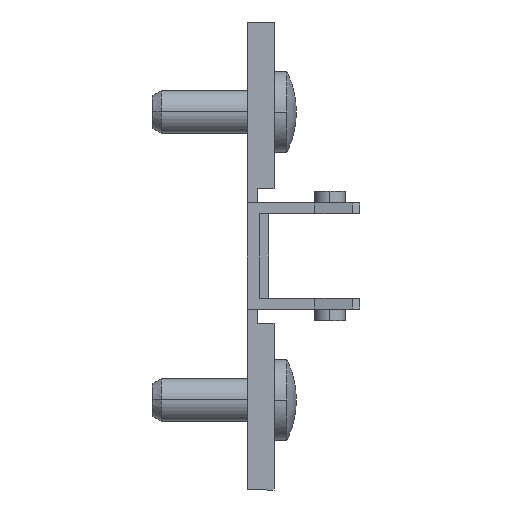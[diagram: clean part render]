
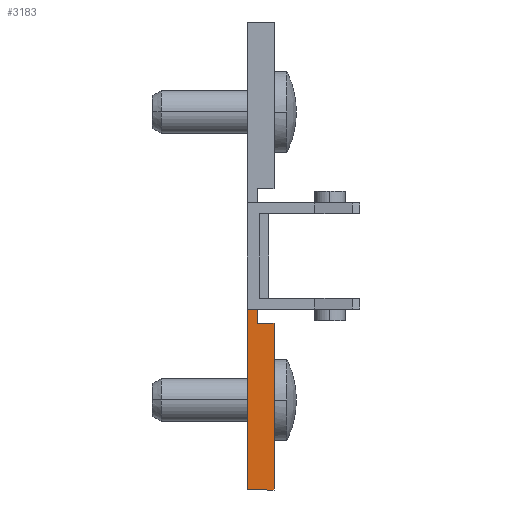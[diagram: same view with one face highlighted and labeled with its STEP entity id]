
A CAD part, front view. The second image highlights one B-rep face of the part: STEP entity #3183.
In plain terms, the highlighted planar face has unit normal (0, -1, 0).
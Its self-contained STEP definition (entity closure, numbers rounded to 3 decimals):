
#4 = CARTESIAN_POINT ( 'NONE',  ( 1.2, -9., -7.5 ) ) ;
#36 = DIRECTION ( 'NONE',  ( -1., 0., 0. ) ) ;
#196 = VECTOR ( 'NONE', #2528, 1000. ) ;
#197 = LINE ( 'NONE', #2527, #196 ) ;
#220 = VECTOR ( 'NONE', #1979, 1000. ) ;
#221 = LINE ( 'NONE', #1341, #220 ) ;
#236 = VECTOR ( 'NONE', #36, 1000. ) ;
#237 = LINE ( 'NONE', #4, #236 ) ;
#278 = VECTOR ( 'NONE', #2452, 1000. ) ;
#279 = LINE ( 'NONE', #2478, #278 ) ;
#341 = VECTOR ( 'NONE', #3059, 1000. ) ;
#359 = LINE ( 'NONE', #3058, #341 ) ;
#381 = VECTOR ( 'NONE', #3010, 1000. ) ;
#382 = LINE ( 'NONE', #3009, #381 ) ;
#908 = CARTESIAN_POINT ( 'NONE',  ( 0., -9., -26. ) ) ;
#909 = CARTESIAN_POINT ( 'NONE',  ( 3., -9., -26. ) ) ;
#910 = CARTESIAN_POINT ( 'NONE',  ( 0., -9., -5.9 ) ) ;
#914 = CARTESIAN_POINT ( 'NONE',  ( 3., -9., -7.5 ) ) ;
#915 = CARTESIAN_POINT ( 'NONE',  ( 1.2, -9., -7.5 ) ) ;
#917 = CARTESIAN_POINT ( 'NONE',  ( 1.2, -9., -5.9 ) ) ;
#1230 = DIRECTION ( 'NONE',  ( 0., 0., 1. ) ) ;
#1234 = DIRECTION ( 'NONE',  ( 0., 1., 0. ) ) ;
#1240 = CARTESIAN_POINT ( 'NONE',  ( 1.2, -9., -5. ) ) ;
#1244 = PLANE ( 'NONE',  #2396 ) ;
#1341 = CARTESIAN_POINT ( 'NONE',  ( 3., -9., -7.5 ) ) ;
#1382 = ORIENTED_EDGE ( 'NONE', *, *, #2187, .F. ) ;
#1383 = ORIENTED_EDGE ( 'NONE', *, *, #2146, .T. ) ;
#1384 = ORIENTED_EDGE ( 'NONE', *, *, #2314, .T. ) ;
#1385 = ORIENTED_EDGE ( 'NONE', *, *, #2295, .T. ) ;
#1386 = ORIENTED_EDGE ( 'NONE', *, *, #2281, .T. ) ;
#1387 = ORIENTED_EDGE ( 'NONE', *, *, #2243, .T. ) ;
#1757 = EDGE_LOOP ( 'NONE', ( #1382, #1383, #1384, #1385, #1386, #1387 ) ) ;
#1979 = DIRECTION ( 'NONE',  ( 0., 0., 1. ) ) ;
#2146 = EDGE_CURVE ( 'NONE', #2642, #2640, #382, .T. ) ;
#2187 = EDGE_CURVE ( 'NONE', #2642, #2633, #359, .T. ) ;
#2243 = EDGE_CURVE ( 'NONE', #2639, #2633, #279, .T. ) ;
#2281 = EDGE_CURVE ( 'NONE', #2638, #2639, #237, .T. ) ;
#2295 = EDGE_CURVE ( 'NONE', #2641, #2638, #221, .T. ) ;
#2314 = EDGE_CURVE ( 'NONE', #2640, #2641, #197, .T. ) ;
#2396 = AXIS2_PLACEMENT_3D ( 'NONE', #1240, #1234, #1230 ) ;
#2452 = DIRECTION ( 'NONE',  ( 0., 0., 1. ) ) ;
#2478 = CARTESIAN_POINT ( 'NONE',  ( 1.2, -9., -5. ) ) ;
#2527 = CARTESIAN_POINT ( 'NONE',  ( 3., -9., -26. ) ) ;
#2528 = DIRECTION ( 'NONE',  ( 1., 0., 0. ) ) ;
#2633 = VERTEX_POINT ( 'NONE', #917 ) ;
#2638 = VERTEX_POINT ( 'NONE', #914 ) ;
#2639 = VERTEX_POINT ( 'NONE', #915 ) ;
#2640 = VERTEX_POINT ( 'NONE', #908 ) ;
#2641 = VERTEX_POINT ( 'NONE', #909 ) ;
#2642 = VERTEX_POINT ( 'NONE', #910 ) ;
#3009 = CARTESIAN_POINT ( 'NONE',  ( 0., -9., -26. ) ) ;
#3010 = DIRECTION ( 'NONE',  ( 0., 0., -1. ) ) ;
#3058 = CARTESIAN_POINT ( 'NONE',  ( 1.2, -9., -5.9 ) ) ;
#3059 = DIRECTION ( 'NONE',  ( 1., 0., 0. ) ) ;
#3183 = ADVANCED_FACE ( 'NONE', ( #3278 ), #1244, .F. ) ;
#3278 = FACE_OUTER_BOUND ( 'NONE', #1757, .T. ) ;
